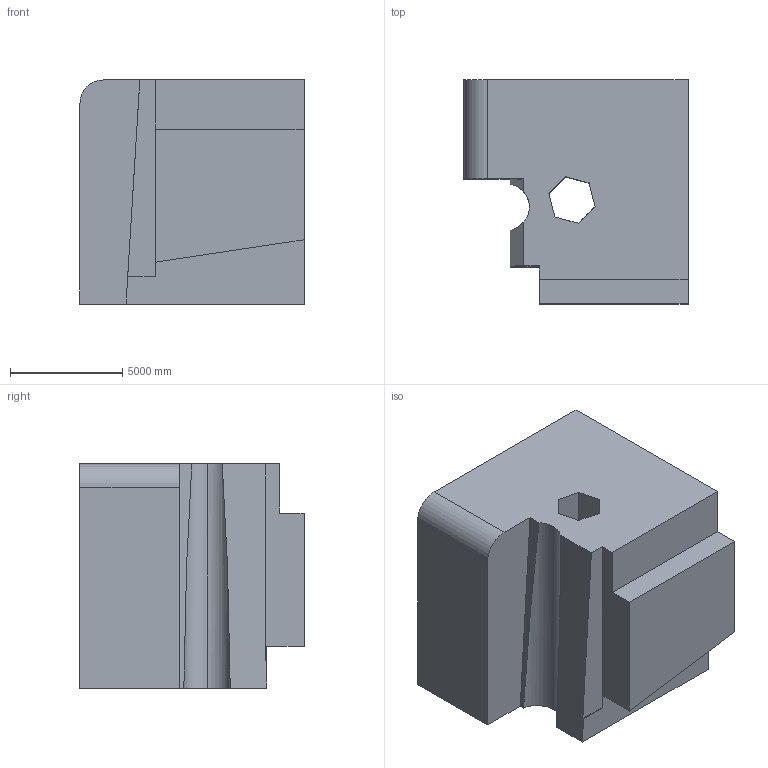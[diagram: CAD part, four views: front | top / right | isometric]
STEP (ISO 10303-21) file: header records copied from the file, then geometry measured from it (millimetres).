
FILE_DESCRIPTION (( 'STEP AP203' ), '1' );
FILE_NAME ('1875.STEP', '2022-08-19T13:53:10', ( 'user' ), ( '' ), 'SwSTEP 2.0', 'SolidWorks 2021', '' );
FILE_SCHEMA (( 'CONFIG_CONTROL_DESIGN' ));
Length unit declared in the file: centimetre
Products named in the file (1): 1875
Bounding box: 10000 x 10000 x 10000 mm (x, y, z)
Volume: 718635062816 mm3; surface area: 697620926.2 mm2
Topology: 1 solids, 1 shells, 36 faces, 108 edges, 72 vertices
Faces by surface type: plane 27, cylinder 9
Entity records: 1847 total; most frequent: CARTESIAN_POINT 823, ORIENTED_EDGE 216, DIRECTION 176, EDGE_CURVE 108, VECTOR 74, LINE 74, VERTEX_POINT 72, AXIS2_PLACEMENT_3D 51
